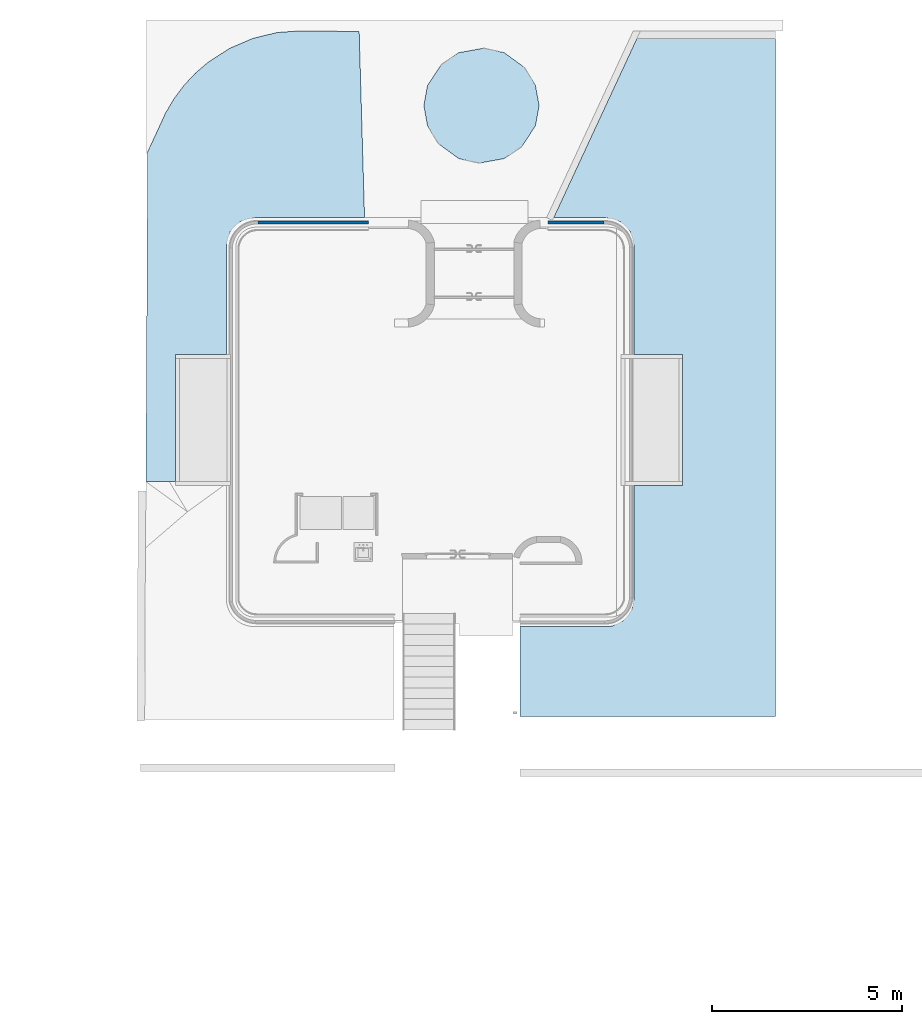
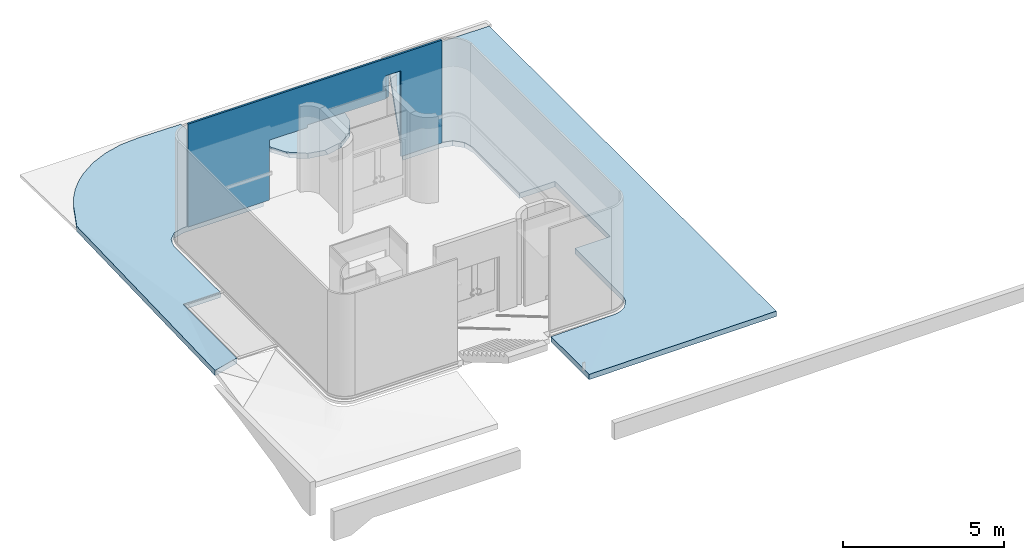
# One storey, part 2 of 6: 1 slab, 1 wall.
"""IFC2X3 building model written with IfcOpenShell, lengths in metres."""

from ifc_helpers import new_model, entity, si_unit, converted_unit, derived_unit, direction, frame, origin, place, context, subcontext, project, spatial, faceted_brep, material, layer, layer_set, type_object, element, save


model = new_model("IFC2X3")

# Units and contexts
model_context = context("Model", 3, precision=1e-05, world=origin(), true_north=direction((6.12303176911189e-17, 1.0)))
body_context = subcontext(model_context, "Body", "Model", "MODEL_VIEW")
ifc_project = project(units=[si_unit("LENGTHUNIT", "METRE"), si_unit("AREAUNIT", "SQUARE_METRE"), si_unit("VOLUMEUNIT", "CUBIC_METRE"), converted_unit("PLANEANGLEUNIT", "DEGREE", entity("IfcRatioMeasure", 0.0174532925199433), si_unit("PLANEANGLEUNIT", "RADIAN"), dimensions=[0, 0, 0, 0, 0, 0, 0]), si_unit("MASSUNIT", "GRAM", prefix="KILO"), derived_unit("MASSDENSITYUNIT", [(si_unit("MASSUNIT", "GRAM", prefix="KILO"), 1), (si_unit("LENGTHUNIT", "METRE"), -3)]), derived_unit("MOMENTOFINERTIAUNIT", [(si_unit("LENGTHUNIT", "METRE"), 4)]), si_unit("TIMEUNIT", "SECOND"), si_unit("FREQUENCYUNIT", "HERTZ"), si_unit("THERMODYNAMICTEMPERATUREUNIT", "DEGREE_CELSIUS"), derived_unit("THERMALTRANSMITTANCEUNIT", [(si_unit("MASSUNIT", "GRAM", prefix="KILO"), 1), (si_unit("THERMODYNAMICTEMPERATUREUNIT", "KELVIN"), -1), (si_unit("TIMEUNIT", "SECOND"), -3)]), derived_unit("VOLUMETRICFLOWRATEUNIT", [(si_unit("LENGTHUNIT", "METRE"), 3), (si_unit("TIMEUNIT", "SECOND"), -1)]), si_unit("ELECTRICCURRENTUNIT", "AMPERE"), si_unit("ELECTRICVOLTAGEUNIT", "VOLT"), si_unit("POWERUNIT", "WATT"), si_unit("FORCEUNIT", "NEWTON", prefix="KILO"), si_unit("ILLUMINANCEUNIT", "LUX"), si_unit("LUMINOUSFLUXUNIT", "LUMEN"), si_unit("LUMINOUSINTENSITYUNIT", "CANDELA"), derived_unit("USERDEFINED", [(si_unit("MASSUNIT", "GRAM", prefix="KILO"), -1), (si_unit("LENGTHUNIT", "METRE"), -2), (si_unit("TIMEUNIT", "SECOND"), 3), (si_unit("LUMINOUSFLUXUNIT", "LUMEN"), 1)]), derived_unit("LINEARVELOCITYUNIT", [(si_unit("LENGTHUNIT", "METRE"), 1), (si_unit("TIMEUNIT", "SECOND"), -1)]), si_unit("PRESSUREUNIT", "PASCAL"), derived_unit("USERDEFINED", [(si_unit("LENGTHUNIT", "METRE"), -2), (si_unit("MASSUNIT", "GRAM", prefix="KILO"), 1), (si_unit("TIMEUNIT", "SECOND"), -2)]), derived_unit("LINEARFORCEUNIT", [(si_unit("MASSUNIT", "GRAM", prefix="KILO"), 1), (si_unit("LENGTHUNIT", "METRE"), 1), (si_unit("TIMEUNIT", "SECOND"), -2), (si_unit("LENGTHUNIT", "METRE"), -1)]), derived_unit("PLANARFORCEUNIT", [(si_unit("MASSUNIT", "GRAM", prefix="KILO"), 1), (si_unit("LENGTHUNIT", "METRE"), 1), (si_unit("TIMEUNIT", "SECOND"), -2), (si_unit("LENGTHUNIT", "METRE"), -2)])], contexts=[model_context])

# Site, building, storey
site_placement = place(None, origin())
site = spatial("IfcSite", under=ifc_project, at=site_placement, Name="Default", CompositionType="ELEMENT")
building_placement = place(site_placement, origin())
building = spatial("IfcBuilding", under=site, at=building_placement, CompositionType="ELEMENT")
storey_placement = place(building_placement, frame((0.0, 0.0, 2.31330827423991)))
storey = spatial("IfcBuildingStorey", under=building, at=storey_placement, Name="Niveau 00 - 03", CompositionType="ELEMENT", Elevation=2.31330827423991)

# Slab
ifc_material_1 = material(Name="ESPACE VERRT")
slab_type = type_object("IfcSlabType", Name="Sol:gazon 200", PredefinedType="FLOOR")
slab_placement = place(storey_placement, origin())
element("IfcSlab", 1, at=slab_placement, inside=storey, type_object=slab_type, material=ifc_material_1, Name="Sol:gazon 200", ObjectType="Sol:gazon 200", PredefinedType="FLOOR", context=body_context, shape_type="Brep", body=[
    faceted_brep([(-11.3539251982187, 19.1939517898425, -0.3), (-12.6328767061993, 19.1939517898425, -0.3), (-12.6328767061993, 19.1939517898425, -0.1), (-11.3539251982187, 19.1939517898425, -0.1), (-11.3539251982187, 22.6439517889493, -0.3), (-11.3539251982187, 22.6439517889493, -0.1), (-12.6328767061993, 22.6439517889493, -0.3), (-12.6328767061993, 22.6439517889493, -0.1), (-12.5601340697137, 30.9802669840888, -0.3), (-14.7541907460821, 26.2543764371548, -0.3), (-14.7541907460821, 26.2543764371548, -0.1), (-12.5601340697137, 30.9802669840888, -0.1), (-8.90602957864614, 30.9802669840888, -0.3), (-8.90602957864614, 30.9802669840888, -0.1), (-8.90602957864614, 13.0987206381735, -0.3), (-8.90602957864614, 13.0987206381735, -0.1), (-15.6358209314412, 13.0987206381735, -0.15), (-15.6358209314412, 13.0987206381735, -0.35), (-12.2709252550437, 13.0987206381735, -0.325), (-12.2709252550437, 13.0987206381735, -0.125), (-15.6358209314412, 15.4689515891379, -0.35), (-15.6358209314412, 15.4689515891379, -0.15), (-13.3728767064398, 15.4689515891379, -0.3), (-13.3728767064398, 15.4689515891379, -0.1), (-13.2762873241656, 15.4752823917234, -0.3), (-13.2762873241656, 15.4752823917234, -0.1), (-13.1813506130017, 15.4941664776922, -0.3), (-13.1813506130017, 15.4941664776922, -0.1), (-13.0518719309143, 15.5580182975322, -0.1), (-12.922393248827, 15.6218701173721, -0.1), (-12.922393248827, 15.6218701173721, -0.3), (-13.0518719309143, 15.5580182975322, -0.3), (-12.8057995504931, 15.7738179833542, -0.1), (-12.6892058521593, 15.9257658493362, -0.1), (-12.6892058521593, 15.9257658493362, -0.3), (-12.8057995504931, 15.7738179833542, -0.3), (-12.6558913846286, 16.0932489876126, -0.1), (-12.6328767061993, 16.2089515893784, -0.1), (-12.6328767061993, 16.2089515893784, -0.3), (-12.6610412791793, 16.0673587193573, -0.3), (-12.6328767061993, 25.5143764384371, -0.3), (-12.6328767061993, 25.5143764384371, -0.1), (-12.7320179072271, 25.8843764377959, -0.3), (-12.6936366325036, 25.7411355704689, -0.3), (-12.6824473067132, 25.6993764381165, -0.1), (-12.7320179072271, 25.8843764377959, -0.1), (-12.8674473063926, 26.0198058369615, -0.1), (-13.0028767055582, 26.155235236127, -0.1), (-13.0028767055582, 26.155235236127, -0.3), (-12.8674473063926, 26.0198058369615, -0.3), (-13.1878767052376, 26.2048058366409, -0.3), (-13.1461176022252, 26.1936165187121, -0.1), (-13.372876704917, 26.2543764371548, -0.1), (-13.372876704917, 26.2543764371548, -0.3), (-10.7057343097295, 14.1070882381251, -0.1), (-10.7057343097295, 14.1070882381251, -0.3), (-14.3254675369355, 14.4711981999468, -0.121047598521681), (-12.1688022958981, 14.2895945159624, -0.108130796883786), (-13.235207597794, 14.2855392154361, -0.115834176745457), (-14.3254675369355, 14.4711981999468, -0.32104759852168), (-12.1688022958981, 14.2895945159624, -0.308130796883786), (-13.235207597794, 14.2855392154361, -0.315834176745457)], [[[0, 1, 2, 3]], [[4, 0, 3, 5]], [[6, 4, 5, 7]], [[8, 9, 10, 11]], [[12, 8, 11, 13]], [[14, 12, 13, 15]], [[16, 17, 18, 14, 15, 19]], [[20, 17, 16, 21]], [[22, 20, 21, 23]], [[24, 22, 23, 25]], [[26, 24, 25, 27]], [[28, 29, 30, 31, 26, 27]], [[32, 33, 34, 35, 30, 29]], [[36, 37, 38, 39, 34, 33]], [[1, 38, 37, 2]], [[40, 6, 7, 41]], [[42, 43, 40, 41, 44, 45]], [[46, 47, 48, 49, 42, 45]], [[50, 48, 47, 51, 52, 53]], [[9, 53, 52, 10]], [[37, 36, 33, 32, 29, 28, 27, 54, 15, 13, 11, 10, 52, 51, 47, 46, 45, 44, 41, 7, 5, 3, 2]], [[1, 0, 4, 6, 40, 43, 42, 49, 48, 50, 53, 9, 8, 12, 14, 55, 26, 31, 30, 35, 34, 39, 38]], [[21, 16, 56, 23]], [[27, 25, 57]], [[58, 19, 57]], [[23, 56, 16, 58]], [[57, 15, 54, 27]], [[19, 58, 16]], [[15, 57, 19]], [[58, 57, 25]], [[23, 58, 25]], [[20, 22, 59, 17]], [[60, 24, 26]], [[60, 18, 61]], [[61, 17, 59, 22]], [[55, 14, 60, 26]], [[17, 61, 18]], [[18, 60, 14]], [[24, 60, 61]], [[24, 61, 22]]]),
    faceted_brep([(-24.723178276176, 22.6439517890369, -0.3), (-23.3881782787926, 22.6439517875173, -0.3), (-23.3881782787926, 22.6439517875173, -0.0999999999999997), (-24.723178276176, 22.6439517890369, -0.100000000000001), (-24.7231782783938, 19.2939517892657, -0.300000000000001), (-24.7231782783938, 19.2939517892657, -0.100000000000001), (-25.5098004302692, 19.2939517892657, -0.300000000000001), (-25.5098004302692, 19.2939517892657, -0.500000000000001), (-25.4651537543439, 27.9907967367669, -0.0999999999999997), (-25.4651537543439, 27.9907967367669, -0.3), (-19.7424916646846, 26.2543764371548, -0.3), (-19.8842809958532, 31.1646919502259, -0.3), (-19.8842809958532, 31.1646919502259, -0.0999999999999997), (-19.7424916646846, 26.2543764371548, -0.0999999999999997), (-25.2270144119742, 28.5021375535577, -0.0999999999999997), (-25.2270144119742, 28.5021375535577, -0.3), (-24.9921852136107, 29.0150069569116, -0.0999999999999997), (-24.9921852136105, 29.0150069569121, -0.3), (-24.7687460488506, 29.3945603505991, -0.0999999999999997), (-24.7687460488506, 29.3945603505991, -0.3), (-24.5050663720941, 29.7473476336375, -0.0999999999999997), (-24.5050663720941, 29.7473476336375, -0.3), (-24.2029767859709, 30.0704090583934, -0.0999999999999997), (-24.2029767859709, 30.0704090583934, -0.3), (-23.8671761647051, 30.3582714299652, -0.0999999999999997), (-23.8671761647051, 30.3582714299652, -0.3), (-23.3043152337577, 30.7199656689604, -0.3), (-23.6333550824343, 30.5085247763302, -0.3), (-23.5857456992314, 30.5391185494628, -0.0999999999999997), (-23.3043152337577, 30.7199656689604, -0.0999999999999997), (-22.9450444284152, 30.8745585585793, -0.0999999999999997), (-22.6897407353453, 30.9844147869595, -0.0999999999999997), (-22.6897407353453, 30.9844147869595, -0.3), (-22.9970279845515, 30.8521902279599, -0.3), (-22.0559357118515, 31.1392216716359, -0.3), (-22.4262721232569, 31.048766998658, -0.3), (-22.3728382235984, 31.0618182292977, -0.0999999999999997), (-22.0559357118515, 31.1392216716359, -0.0999999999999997), (-21.6756673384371, 31.1661859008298, -0.0999999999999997), (-21.405132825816, 31.1853690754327, -0.0999999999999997), (-21.405132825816, 31.1853690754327, -0.3), (-21.7305342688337, 31.1622953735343, -0.3), (-22.6481782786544, 26.2543764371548, -0.3), (-22.6481782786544, 26.2543764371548, -0.0999999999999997), (-22.833178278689, 26.2048058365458, -0.0999999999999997), (-23.0181782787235, 26.1552352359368, -0.0999999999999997), (-23.0181782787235, 26.1552352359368, -0.3), (-22.8749373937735, 26.1936165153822, -0.3), (-23.2890370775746, 25.8843764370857, -0.3), (-23.153607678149, 26.0198058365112, -0.3), (-23.153607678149, 26.0198058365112, -0.0999999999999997), (-23.2890370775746, 25.8843764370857, -0.0999999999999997), (-23.3881782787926, 25.5143764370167, -0.0999999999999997), (-23.3881782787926, 25.5143764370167, -0.3), (-23.3386076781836, 25.6993764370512, -0.3), (-23.3274183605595, 25.7411355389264, -0.1)], [[[0, 1, 2, 3]], [[4, 0, 3, 5]], [[6, 7, 4, 5]], [[7, 6, 8, 9]], [[10, 11, 12, 13]], [[8, 14, 15, 9]], [[16, 17, 15, 14]], [[17, 16, 18, 19]], [[18, 20, 21, 19]], [[21, 20, 22, 23]], [[22, 24, 25, 23]], [[26, 27, 25, 24, 28, 29]], [[29, 30, 31, 32, 33, 26]], [[34, 35, 32, 31, 36, 37]], [[37, 38, 39, 40, 41, 34]], [[11, 40, 39, 12]], [[42, 10, 13, 43]], [[44, 45, 46, 47, 42, 43]], [[48, 49, 46, 45, 50, 51]], [[52, 53, 54, 48, 51, 55]], [[1, 53, 52, 2]], [[13, 12, 39, 38, 37, 36, 31, 30, 29, 28, 24, 22, 20, 18, 16, 14, 8, 3, 2, 52, 55, 51, 50, 45, 44, 43]], [[40, 11, 10, 42, 47, 46, 49, 48, 54, 53, 1, 0, 9, 15, 17, 19, 21, 23, 25, 27, 26, 33, 32, 35, 34, 41]], [[6, 5, 3]], [[0, 4, 7]], [[8, 6, 3]], [[0, 7, 9]]]),
    faceted_brep([(-18.0812397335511, 29.7445450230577, -0.1), (-18.0812397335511, 29.7445450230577, -0.3), (-18.1177204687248, 29.5435196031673, -0.3), (-18.1781627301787, 29.2104552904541, -0.3), (-18.1781627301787, 29.2104552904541, -0.1), (-18.1297012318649, 29.4775001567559, -0.1), (-16.3935609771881, 30.6685311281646, -0.3), (-16.5899681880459, 30.7289247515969, -0.1), (-16.3253664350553, 30.6685311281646, -0.1), (-17.9420355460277, 29.9775335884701, -0.3), (-16.7263572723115, 30.7289247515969, -0.3), (-15.787129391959, 30.4093298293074, -0.1), (-15.6077475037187, 30.3091034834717, -0.3), (-15.8342560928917, 30.458620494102, -0.3), (-17.7085779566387, 30.3091034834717, -0.1), (-17.5291960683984, 30.4093298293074, -0.3), (-17.8028313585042, 30.2105221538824, -0.3), (-17.4820693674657, 30.458620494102, -0.1), (-17.2555607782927, 30.6081375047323, -0.3), (-17.8949088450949, 30.0268242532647, -0.1), (-17.2555607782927, 30.6081375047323, -0.1), (-16.9909590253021, 30.6685311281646, -0.3), (-16.9227644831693, 30.6685311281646, -0.1), (-16.0607646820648, 30.6081375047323, -0.3), (-16.0607646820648, 30.6081375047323, -0.1), (-15.1381627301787, 29.2104552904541, -0.1), (-15.1381627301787, 29.2104552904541, -0.3), (-15.1866242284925, 29.4775001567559, -0.3), (-15.2350857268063, 29.7445450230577, -0.3), (-15.2350857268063, 29.7445450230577, -0.1), (-15.1986049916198, 29.5435196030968, -0.1), (-15.5134941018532, 30.2105221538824, -0.1), (-15.4214166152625, 30.0268242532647, -0.3), (-15.3742899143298, 29.9775335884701, -0.1), (-16.7563663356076, 30.6987279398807, -0.1), (-15.2350857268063, 28.6763655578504, -0.1), (-15.2350857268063, 28.6763655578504, -0.3), (-15.1866242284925, 28.9434104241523, -0.3), (-15.1986049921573, 28.8773909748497, -0.1), (-15.8342560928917, 27.9622900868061, -0.1), (-16.0607646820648, 27.8127730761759, -0.1), (-16.0607646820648, 27.8127730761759, -0.3), (-15.6077475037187, 28.1118070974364, -0.1), (-15.787129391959, 28.0115807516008, -0.3), (-15.5134941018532, 28.2103884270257, -0.3), (-15.4214166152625, 28.3940863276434, -0.1), (-15.3742899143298, 28.4433769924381, -0.3), (-16.3253664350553, 27.7523794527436, -0.3), (-16.5899681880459, 27.6919858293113, -0.3), (-16.3935609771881, 27.7523794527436, -0.1), (-16.5599591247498, 27.7221826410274, -0.1), (-16.7263572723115, 27.6919858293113, -0.1), (-18.1177204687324, 28.8773909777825, -0.1), (-18.1297012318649, 28.9434104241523, -0.3), (-18.0812397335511, 28.6763655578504, -0.3), (-18.0812397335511, 28.6763655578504, -0.1), (-17.4820693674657, 27.9622900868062, -0.3), (-17.2555607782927, 27.8127730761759, -0.3), (-17.2555607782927, 27.8127730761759, -0.1), (-17.9420355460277, 28.4433769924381, -0.1), (-17.8028313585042, 28.2103884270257, -0.1), (-17.8949088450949, 28.3940863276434, -0.3), (-17.7085779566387, 28.1118070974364, -0.3), (-17.5291960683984, 28.0115807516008, -0.1), (-16.9227644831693, 27.7523794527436, -0.3), (-16.9909590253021, 27.7523794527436, -0.1)], [[[0, 1, 2, 3, 4, 5]], [[6, 7, 8]], [[9, 1, 0]], [[10, 7, 6]], [[11, 12, 13]], [[14, 15, 16]], [[15, 14, 17]], [[17, 18, 15]], [[19, 14, 16]], [[0, 19, 9]], [[20, 21, 18]], [[20, 22, 21]], [[13, 23, 24]], [[25, 26, 27, 28, 29, 30]], [[31, 32, 12]], [[33, 29, 28]], [[8, 24, 23]], [[19, 16, 9]], [[32, 31, 33]], [[33, 28, 32]], [[24, 11, 13]], [[10, 22, 34, 7]], [[10, 21, 22]], [[11, 31, 12]], [[23, 6, 8]], [[17, 20, 18]], [[35, 36, 37, 26, 25, 38]], [[39, 40, 41]], [[42, 43, 44]], [[45, 42, 44]], [[46, 36, 35]], [[43, 42, 39]], [[39, 41, 43]], [[40, 47, 41]], [[35, 45, 46]], [[48, 47, 49]], [[48, 49, 50, 51]], [[40, 49, 47]], [[52, 4, 3, 53, 54, 55]], [[56, 57, 58]], [[59, 55, 54]], [[60, 61, 62]], [[63, 62, 56]], [[64, 51, 65]], [[65, 58, 57]], [[45, 44, 46]], [[61, 60, 59]], [[59, 54, 61]], [[57, 64, 65]], [[63, 60, 62]], [[48, 51, 64]], [[58, 63, 56]], [[59, 60, 63, 58, 65, 51, 50, 49, 40, 39, 42, 45, 35, 38, 25, 30, 29, 33, 31, 11, 24, 8, 7, 34, 22, 20, 17, 14, 19, 0, 5, 4, 52, 55]], [[3, 2, 1, 9, 16, 15, 18, 21, 10, 6, 23, 13, 12, 32, 28, 27, 26, 37, 36, 46, 44, 43, 41, 47, 48, 64, 57, 56, 62, 61, 54, 53]]]),
])

# Wall
ifc_material_2 = material(Name="Verre")
ifc_layer = layer(ifc_material_2, 0.07)
ifc_layer_set = layer_set([ifc_layer], Name="Mur de base:Mur en verre 70")
wall_type = type_object("IfcWallType", Name="Mur de base:Mur en verre 70", PredefinedType="STANDARD", material=ifc_layer_set)
wall_placement = place(storey_placement, frame((-13.4224134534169, 26.1266048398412, 0.0), z_axis=(0.0, 0.0, 1.0), x_axis=(-1.0, 0.0, 0.0)))
element("IfcWall", 2, at=wall_placement, inside=storey, type_object=wall_type, Name="Mur de base:Mur en verre 70", ObjectType="Mur de base:Mur en verre 70", context=body_context, shape_type="Brep", body=[
    faceted_brep([(9.13551597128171, -0.0349999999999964, 0.0), (6.21076416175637, -0.0350000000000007, 0.0), (6.21076416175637, 0.0350000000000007, 0.0), (9.13588868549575, 0.035000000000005, 0.0), (1.48032857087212, -0.0349999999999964, 0.0), (0.000372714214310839, -0.0350000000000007, 0.0), (0.0, 0.0350000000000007, 0.0), (1.48032857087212, 0.035000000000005, 0.0), (1.48032857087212, -0.0349999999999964, 3.25856448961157), (1.86094634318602, -0.0349999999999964, 3.25856448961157), (1.860946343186, -0.0349999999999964, 2.3784), (4.9999423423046, -0.0349999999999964, 2.3784), (4.99994234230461, -0.0349999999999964, 2.27856448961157), (6.21076416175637, -0.0350000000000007, 2.27856448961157), (9.13551597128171, -0.0349999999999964, 3.90856448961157), (0.000372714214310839, -0.0350000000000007, 3.90856448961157), (6.21076416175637, 0.0350000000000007, 2.27856448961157), (4.83797592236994, 0.0350000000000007, 2.27856448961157), (4.83797592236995, 0.0350000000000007, 2.3784), (2.02291276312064, 0.0350000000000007, 2.3784), (2.02291276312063, 0.0350000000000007, 3.25856448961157), (1.48032857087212, 0.035000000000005, 3.25856448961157), (0.0, 0.0350000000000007, 3.90856448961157), (9.13588868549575, 0.035000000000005, 3.90856448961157), (4.916924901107, -0.00470681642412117, 2.27856448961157), (4.94417394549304, -0.0158634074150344, 2.3784), (1.94396378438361, -0.00470681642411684, 2.3784), (4.89010882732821, 0.00750377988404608, 2.3784), (1.94396460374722, -0.00470646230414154, 3.25856448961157)], [[[0, 1, 2, 3]], [[4, 5, 6, 7]], [[8, 9, 10, 11, 12, 13, 1, 0, 14, 15, 5, 4]], [[16, 17, 18, 19, 20, 21, 7, 6, 22, 23, 3, 2]], [[15, 14, 23, 22]], [[12, 24, 17, 16, 13]], [[4, 7, 21, 8]], [[1, 13, 16, 2]], [[25, 11, 10, 26, 19, 18, 27]], [[18, 17, 27]], [[27, 17, 24]], [[24, 12, 25]], [[11, 25, 12]], [[24, 25, 27]], [[21, 20, 28, 9, 8]], [[26, 10, 9]], [[28, 26, 9]], [[20, 19, 28]], [[26, 28, 19]], [[14, 0, 3, 23]], [[22, 6, 5, 15]]]),
])

save(model, "model.ifc")
